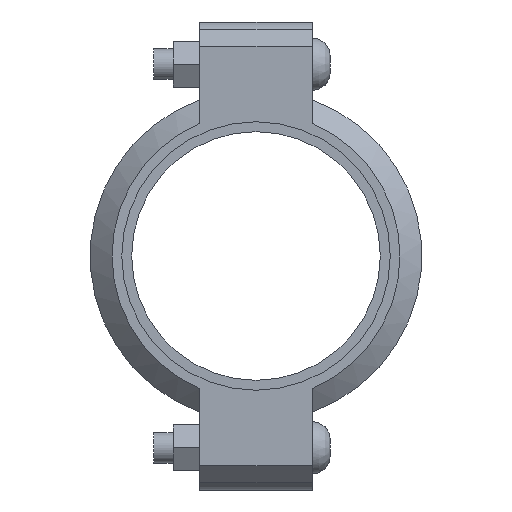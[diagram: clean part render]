
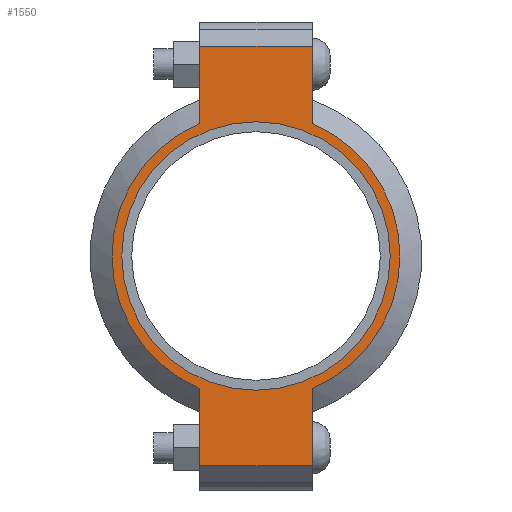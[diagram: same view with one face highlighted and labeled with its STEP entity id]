
A CAD part, left-side view. The second image highlights one B-rep face of the part: STEP entity #1550.
In plain terms, the highlighted planar face has unit normal (-1, 0, 0) as drawn and (0, 0, 1) by its records, which use the part's own axes.
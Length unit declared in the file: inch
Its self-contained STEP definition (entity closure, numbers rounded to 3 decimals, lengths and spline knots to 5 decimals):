
#174=LINE('',#2705,#267);
#182=LINE('',#2741,#275);
#189=LINE('',#2762,#282);
#198=LINE('',#2794,#291);
#199=LINE('',#2798,#292);
#200=LINE('',#2800,#293);
#267=VECTOR('',#2205,0.3937);
#275=VECTOR('',#2221,0.3937);
#282=VECTOR('',#2240,0.3937);
#291=VECTOR('',#2265,0.3937);
#292=VECTOR('',#2270,0.3937);
#293=VECTOR('',#2271,0.3937);
#349=FACE_BOUND('',#527,.T.);
#421=FACE_OUTER_BOUND('',#526,.T.);
#526=EDGE_LOOP('',(#1291,#1292,#1293,#1294,#1295,#1296,#1297,#1298));
#527=EDGE_LOOP('',(#1299));
#599=CIRCLE('',#1769,2.75);
#625=CIRCLE('',#1828,2.95);
#626=CIRCLE('',#1829,2.95);
#691=VERTEX_POINT('',#2521);
#734=VERTEX_POINT('',#2702);
#735=VERTEX_POINT('',#2704);
#746=VERTEX_POINT('',#2736);
#747=VERTEX_POINT('',#2740);
#754=VERTEX_POINT('',#2759);
#755=VERTEX_POINT('',#2761);
#765=VERTEX_POINT('',#2797);
#766=VERTEX_POINT('',#2799);
#847=EDGE_CURVE('',#691,#691,#599,.T.);
#908=EDGE_CURVE('',#735,#734,#174,.T.);
#922=EDGE_CURVE('',#747,#746,#182,.T.);
#932=EDGE_CURVE('',#755,#754,#189,.T.);
#947=EDGE_CURVE('',#747,#734,#198,.T.);
#948=EDGE_CURVE('',#746,#755,#625,.T.);
#949=EDGE_CURVE('',#765,#754,#199,.T.);
#950=EDGE_CURVE('',#765,#766,#200,.T.);
#951=EDGE_CURVE('',#766,#735,#626,.T.);
#1291=ORIENTED_EDGE('',*,*,#947,.F.);
#1292=ORIENTED_EDGE('',*,*,#922,.T.);
#1293=ORIENTED_EDGE('',*,*,#948,.T.);
#1294=ORIENTED_EDGE('',*,*,#932,.T.);
#1295=ORIENTED_EDGE('',*,*,#949,.F.);
#1296=ORIENTED_EDGE('',*,*,#950,.T.);
#1297=ORIENTED_EDGE('',*,*,#951,.T.);
#1298=ORIENTED_EDGE('',*,*,#908,.T.);
#1299=ORIENTED_EDGE('',*,*,#847,.T.);
#1392=PLANE('',#1827);
#1550=ADVANCED_FACE('',(#421,#349),#1392,.T.);
#1769=AXIS2_PLACEMENT_3D('',#2523,#2081,#2082);
#1827=AXIS2_PLACEMENT_3D('',#2795,#2266,#2267);
#1828=AXIS2_PLACEMENT_3D('',#2796,#2268,#2269);
#1829=AXIS2_PLACEMENT_3D('',#2801,#2272,#2273);
#2081=DIRECTION('center_axis',(0.,0.,-1.));
#2082=DIRECTION('ref_axis',(-1.,0.,0.));
#2205=DIRECTION('',(-1.,0.,0.));
#2221=DIRECTION('',(1.,0.,0.));
#2240=DIRECTION('',(1.,0.,0.));
#2265=DIRECTION('',(0.,1.,0.));
#2266=DIRECTION('center_axis',(0.,0.,1.));
#2267=DIRECTION('ref_axis',(1.,0.,0.));
#2268=DIRECTION('center_axis',(0.,0.,1.));
#2269=DIRECTION('ref_axis',(-1.,0.,0.));
#2270=DIRECTION('',(0.,-1.,0.));
#2271=DIRECTION('',(-1.,0.,0.));
#2272=DIRECTION('center_axis',(0.,0.,1.));
#2273=DIRECTION('ref_axis',(-1.,0.,0.));
#2521=CARTESIAN_POINT('',(2.75,0.,1.065));
#2523=CARTESIAN_POINT('Origin',(0.,0.,1.065));
#2702=CARTESIAN_POINT('',(-4.295,1.15,1.065));
#2704=CARTESIAN_POINT('',(-2.71662,1.15,1.065));
#2705=CARTESIAN_POINT('',(-4.795,1.15,1.065));
#2736=CARTESIAN_POINT('',(-2.71662,-1.15,1.065));
#2740=CARTESIAN_POINT('',(-4.295,-1.15,1.065));
#2741=CARTESIAN_POINT('',(4.795,-1.15,1.065));
#2759=CARTESIAN_POINT('',(4.295,-1.15,1.065));
#2761=CARTESIAN_POINT('',(2.71662,-1.15,1.065));
#2762=CARTESIAN_POINT('',(4.795,-1.15,1.065));
#2794=CARTESIAN_POINT('',(-4.295,0.575,1.065));
#2795=CARTESIAN_POINT('Origin',(0.,0.,1.065));
#2796=CARTESIAN_POINT('Origin',(0.,0.,1.065));
#2797=CARTESIAN_POINT('',(4.295,1.15,1.065));
#2798=CARTESIAN_POINT('',(4.295,-0.575,1.065));
#2799=CARTESIAN_POINT('',(2.71662,1.15,1.065));
#2800=CARTESIAN_POINT('',(-4.795,1.15,1.065));
#2801=CARTESIAN_POINT('Origin',(0.,0.,1.065));
